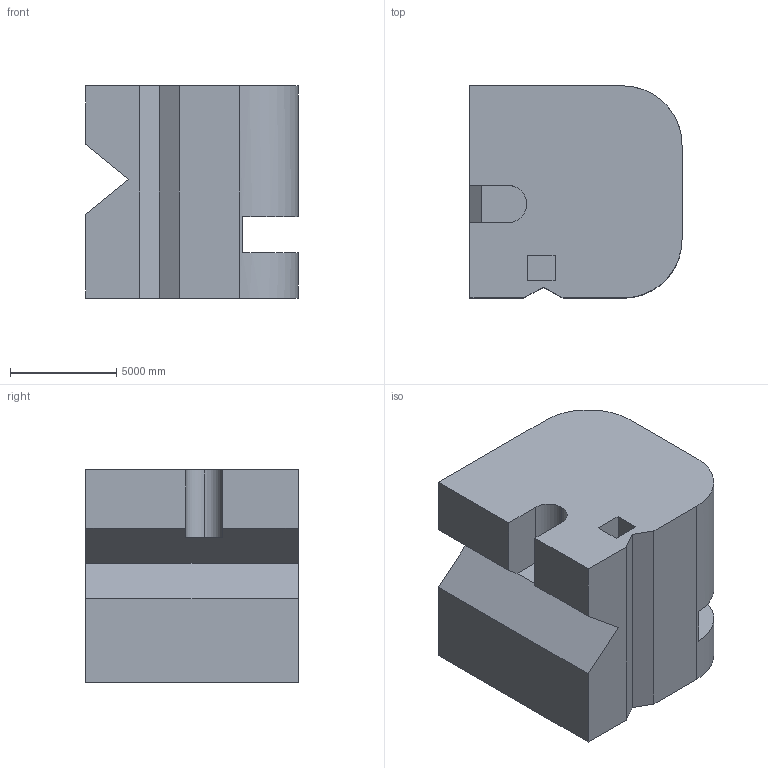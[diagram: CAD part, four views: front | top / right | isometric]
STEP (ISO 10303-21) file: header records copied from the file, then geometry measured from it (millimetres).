
FILE_DESCRIPTION (( 'STEP AP203' ), '1' );
FILE_NAME ('629.STEP', '2022-07-29T12:11:14', ( 'user' ), ( '' ), 'SwSTEP 2.0', 'SolidWorks 2021', '' );
FILE_SCHEMA (( 'CONFIG_CONTROL_DESIGN' ));
Length unit declared in the file: centimetre
Products named in the file (1): 629
Bounding box: 10000 x 10000 x 10000 mm (x, y, z)
Volume: 868035992356.9 mm3; surface area: 661740853.4 mm2
Topology: 1 solids, 1 shells, 29 faces, 78 edges, 52 vertices
Faces by surface type: plane 25, cylinder 4
Entity records: 981 total; most frequent: CARTESIAN_POINT 160, ORIENTED_EDGE 156, DIRECTION 150, EDGE_CURVE 78, VECTOR 66, LINE 66, VERTEX_POINT 52, AXIS2_PLACEMENT_3D 42
